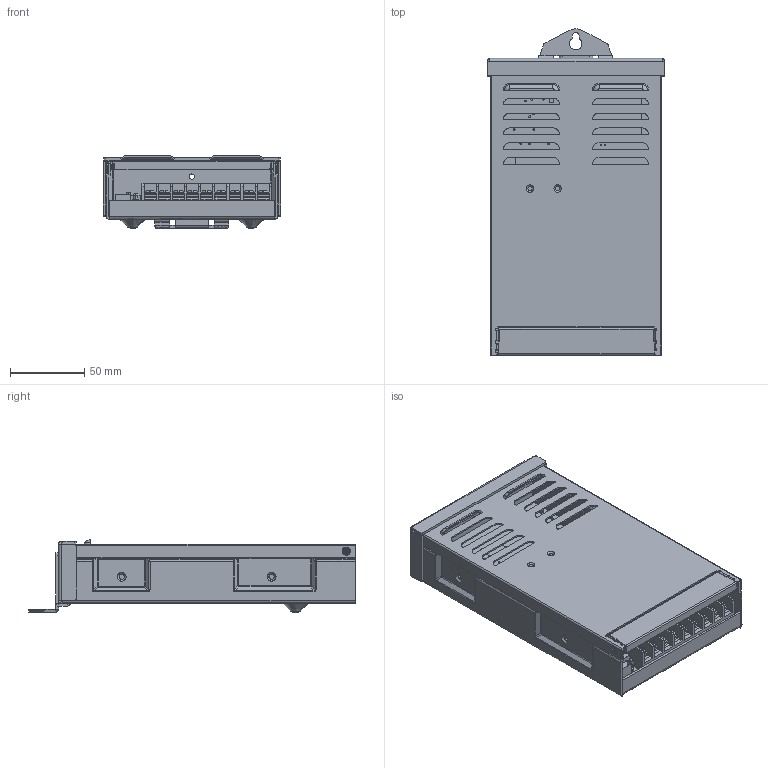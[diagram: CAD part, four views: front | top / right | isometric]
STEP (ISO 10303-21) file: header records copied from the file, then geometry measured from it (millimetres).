
FILE_DESCRIPTION(/* description */ (''),/* implementation_level */ '2;1');
FILE_NAME(/* name */ 'NHR350H',/* time_stamp */ '2025-08-04T10:35:09+08:00',/* author */ (''),/* organization */ (''),/* preprocessor_version */ 'ST-DEVELOPER v16.5',/* originating_system */ '',/* authorisation */ '');
FILE_SCHEMA (('AUTOMOTIVE_DESIGN'));
Products named in the file (2): Document; wireframe_rep_0
Assembly tree (1 placements, depth 2):
  Document
    wireframe_rep_0
Bounding box: 119.6 x 219.8 x 48.63 mm (x, y, z)
Volume: 37370.6 mm3; surface area: 203256.2 mm2
Topology: 21 solids, 51 shells, 2726 faces, 7076 edges, 4462 vertices
Faces by surface type: bspline 1503, plane 1223
Entity records: 109322 total; most frequent: CARTESIAN_POINT 65422, ORIENTED_EDGE 13918, EDGE_CURVE 7068, B_SPLINE_CURVE_WITH_KNOTS 4548, VERTEX_POINT 4460, EDGE_LOOP 3532, ADVANCED_FACE 2726, FACE_OUTER_BOUND 2726
